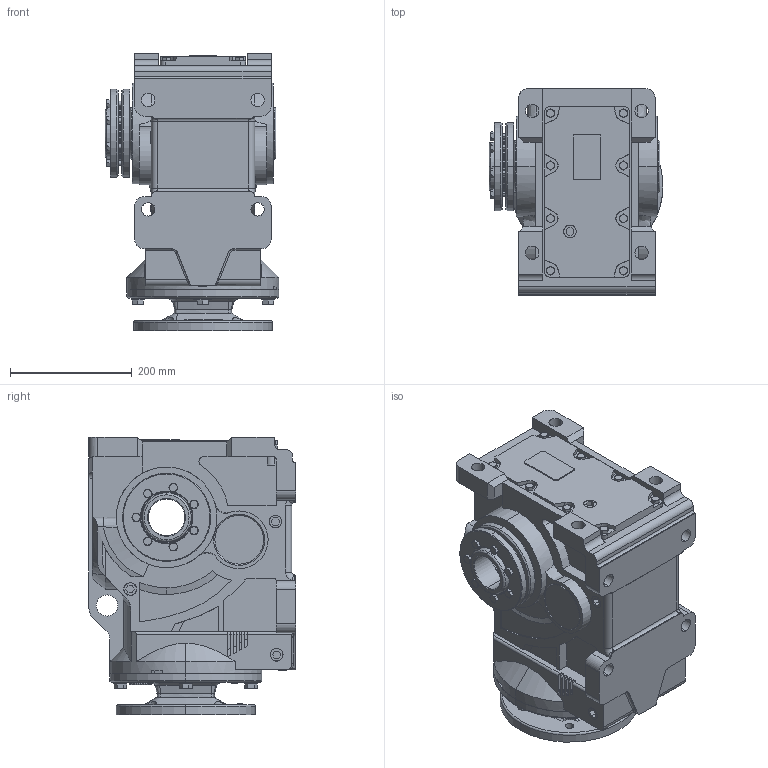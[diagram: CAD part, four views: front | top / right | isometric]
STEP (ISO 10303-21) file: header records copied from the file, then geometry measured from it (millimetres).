
FILE_DESCRIPTION (( 'STEP AP203' ), '1' );
FILE_NAME ('KHN87-182TC-B-POWER LOCK.STEP', '2020-11-25T03:04:44', ( 'Microsoft' ), ( 'Microsoft' ), 'SwSTEP 2.0', 'SolidWorks 2012', '' );
FILE_SCHEMA (( 'CONFIG_CONTROL_DESIGN' ));
Products named in the file (1): KHN87-182TC-B-POWER LOCK
Bounding box: 286 x 340.5 x 457 mm (x, y, z)
Volume: 23352163.3 mm3; surface area: 1041293.7 mm2
Topology: 2 solids, 23 shells, 1523 faces, 3835 edges, 2452 vertices
Faces by surface type: plane 682, cylinder 379, cone 279, bspline 143, torus 40
Entity records: 57846 total; most frequent: CARTESIAN_POINT 21860, ORIENTED_EDGE 7618, DIRECTION 7148, EDGE_CURVE 3809, AXIS2_PLACEMENT_3D 2571, VERTEX_POINT 2452, VECTOR 2006, LINE 2006
